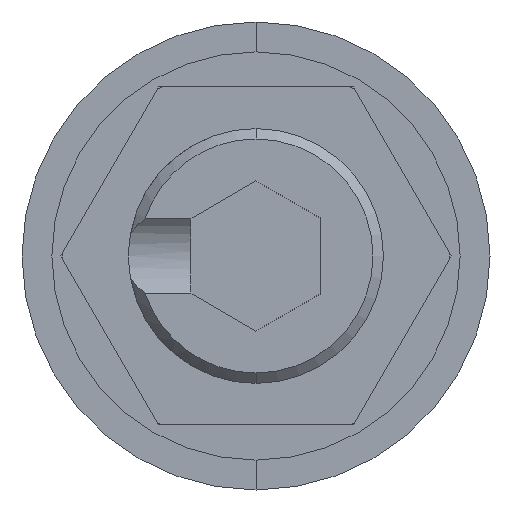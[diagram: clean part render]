
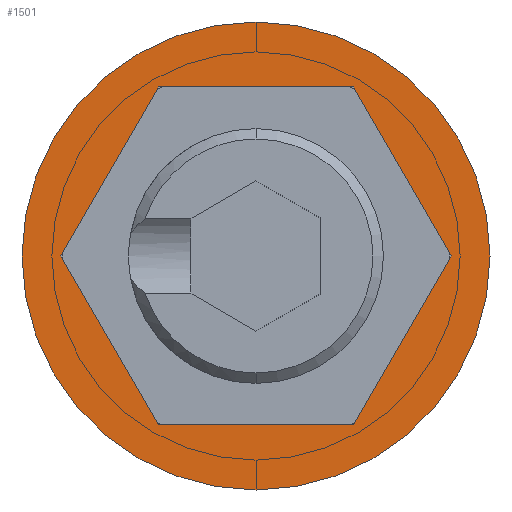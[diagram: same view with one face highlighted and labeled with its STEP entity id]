
A CAD part, front view. The second image highlights one B-rep face of the part: STEP entity #1501.
In plain terms, the highlighted planar face has unit normal (0, -1, 0).
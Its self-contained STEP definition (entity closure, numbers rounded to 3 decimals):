
#46 = EDGE_LOOP ( 'NONE', ( #770, #745, #723, #715, #683, #674 ) ) ;
#174 = CARTESIAN_POINT ( 'NONE',  ( 1.876, 0., 3.25 ) ) ;
#310 = VECTOR ( 'NONE', #1757, 1000. ) ;
#314 = EDGE_CURVE ( 'NONE', #676, #1993, #1539, .T. ) ;
#338 = LINE ( 'NONE', #1798, #310 ) ;
#346 = CIRCLE ( 'NONE', #584, 4.5 ) ;
#348 = AXIS2_PLACEMENT_3D ( 'NONE', #1334, #1353, #1365 ) ;
#359 = VERTEX_POINT ( 'NONE', #1215 ) ;
#370 = CARTESIAN_POINT ( 'NONE',  ( -1.876, 0., -3.25 ) ) ;
#440 = AXIS2_PLACEMENT_3D ( 'NONE', #537, #498, #490 ) ;
#490 = DIRECTION ( 'NONE',  ( 0., 0., -1. ) ) ;
#498 = DIRECTION ( 'NONE',  ( 0., -1., 0. ) ) ;
#537 = CARTESIAN_POINT ( 'NONE',  ( 0., 0., 0. ) ) ;
#584 = AXIS2_PLACEMENT_3D ( 'NONE', #1609, #1607, #1601 ) ;
#618 = ORIENTED_EDGE ( 'NONE', *, *, #1846, .T. ) ;
#645 = ORIENTED_EDGE ( 'NONE', *, *, #1561, .T. ) ;
#674 = ORIENTED_EDGE ( 'NONE', *, *, #1720, .F. ) ;
#676 = VERTEX_POINT ( 'NONE', #1753 ) ;
#683 = ORIENTED_EDGE ( 'NONE', *, *, #1417, .F. ) ;
#711 = VERTEX_POINT ( 'NONE', #1776 ) ;
#715 = ORIENTED_EDGE ( 'NONE', *, *, #994, .F. ) ;
#723 = ORIENTED_EDGE ( 'NONE', *, *, #314, .F. ) ;
#745 = ORIENTED_EDGE ( 'NONE', *, *, #1826, .F. ) ;
#770 = ORIENTED_EDGE ( 'NONE', *, *, #1044, .F. ) ;
#814 = CARTESIAN_POINT ( 'NONE',  ( -3.753, 0., 0. ) ) ;
#963 = CARTESIAN_POINT ( 'NONE',  ( 3.753, 0., 0. ) ) ;
#977 = VERTEX_POINT ( 'NONE', #370 ) ;
#994 = EDGE_CURVE ( 'NONE', #1125, #676, #1596, .T. ) ;
#1008 = DIRECTION ( 'NONE',  ( -0.5, 0., 0.866 ) ) ;
#1028 = LINE ( 'NONE', #2151, #1063 ) ;
#1044 = EDGE_CURVE ( 'NONE', #977, #1514, #1444, .T. ) ;
#1063 = VECTOR ( 'NONE', #2078, 1000. ) ;
#1104 = CIRCLE ( 'NONE', #440, 4.5 ) ;
#1108 = VECTOR ( 'NONE', #1869, 1000. ) ;
#1114 = DIRECTION ( 'NONE',  ( -0.5, 0., -0.866 ) ) ;
#1125 = VERTEX_POINT ( 'NONE', #174 ) ;
#1140 = CARTESIAN_POINT ( 'NONE',  ( -1.876, 0., 3.25 ) ) ;
#1203 = CARTESIAN_POINT ( 'NONE',  ( 0., 0., -4.5 ) ) ;
#1214 = FACE_BOUND ( 'NONE', #46, .T. ) ;
#1215 = CARTESIAN_POINT ( 'NONE',  ( 3.753, 0., 0. ) ) ;
#1220 = FACE_OUTER_BOUND ( 'NONE', #1433, .T. ) ;
#1310 = LINE ( 'NONE', #963, #1389 ) ;
#1326 = PLANE ( 'NONE',  #348 ) ;
#1334 = CARTESIAN_POINT ( 'NONE',  ( 0., 0., 0. ) ) ;
#1336 = CARTESIAN_POINT ( 'NONE',  ( 1.876, 0., -3.25 ) ) ;
#1353 = DIRECTION ( 'NONE',  ( 0., -1., 0. ) ) ;
#1365 = DIRECTION ( 'NONE',  ( 0., 0., -1. ) ) ;
#1389 = VECTOR ( 'NONE', #1008, 1000. ) ;
#1417 = EDGE_CURVE ( 'NONE', #359, #1125, #1310, .T. ) ;
#1433 = EDGE_LOOP ( 'NONE', ( #645, #618 ) ) ;
#1444 = LINE ( 'NONE', #2192, #1475 ) ;
#1475 = VECTOR ( 'NONE', #2231, 1000. ) ;
#1490 = VERTEX_POINT ( 'NONE', #1203 ) ;
#1501 = ADVANCED_FACE ( 'NONE', ( #1214, #1220 ), #1326, .T. ) ;
#1514 = VERTEX_POINT ( 'NONE', #1336 ) ;
#1539 = LINE ( 'NONE', #1140, #2166 ) ;
#1561 = EDGE_CURVE ( 'NONE', #1490, #711, #1104, .T. ) ;
#1596 = LINE ( 'NONE', #1926, #1108 ) ;
#1601 = DIRECTION ( 'NONE',  ( 0., 0., -1. ) ) ;
#1607 = DIRECTION ( 'NONE',  ( 0., -1., 0. ) ) ;
#1609 = CARTESIAN_POINT ( 'NONE',  ( 0., 0., 0. ) ) ;
#1720 = EDGE_CURVE ( 'NONE', #1514, #359, #1028, .T. ) ;
#1753 = CARTESIAN_POINT ( 'NONE',  ( -1.876, 0., 3.25 ) ) ;
#1757 = DIRECTION ( 'NONE',  ( 0.5, 0., -0.866 ) ) ;
#1776 = CARTESIAN_POINT ( 'NONE',  ( 0., 0., 4.5 ) ) ;
#1798 = CARTESIAN_POINT ( 'NONE',  ( -3.753, 0., 0. ) ) ;
#1826 = EDGE_CURVE ( 'NONE', #1993, #977, #338, .T. ) ;
#1846 = EDGE_CURVE ( 'NONE', #711, #1490, #346, .T. ) ;
#1869 = DIRECTION ( 'NONE',  ( -1., 0., 0. ) ) ;
#1926 = CARTESIAN_POINT ( 'NONE',  ( 1.876, 0., 3.25 ) ) ;
#1993 = VERTEX_POINT ( 'NONE', #814 ) ;
#2078 = DIRECTION ( 'NONE',  ( 0.5, 0., 0.866 ) ) ;
#2151 = CARTESIAN_POINT ( 'NONE',  ( 1.876, 0., -3.25 ) ) ;
#2166 = VECTOR ( 'NONE', #1114, 1000. ) ;
#2192 = CARTESIAN_POINT ( 'NONE',  ( -1.876, 0., -3.25 ) ) ;
#2231 = DIRECTION ( 'NONE',  ( 1., 0., 0. ) ) ;
